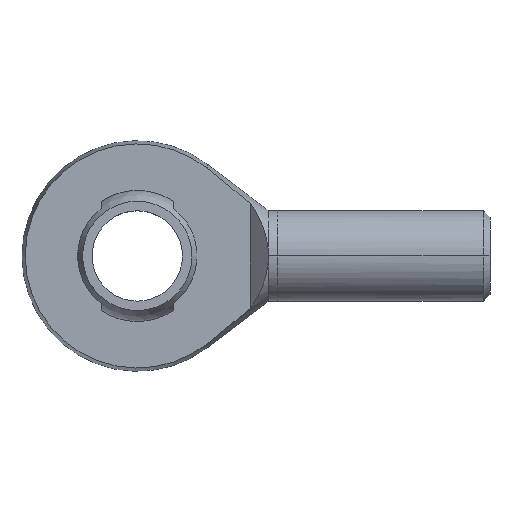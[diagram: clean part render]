
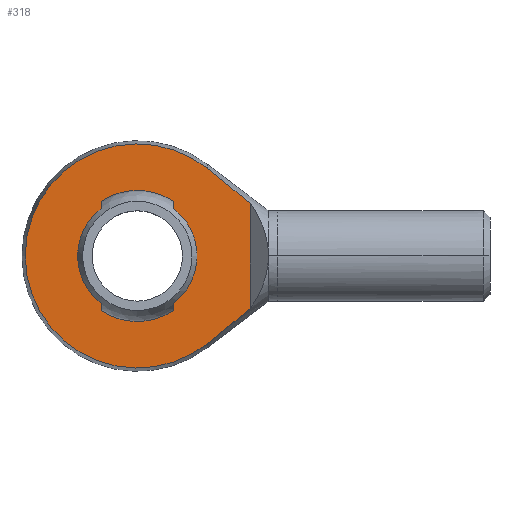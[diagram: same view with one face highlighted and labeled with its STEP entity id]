
A CAD part, top view. The second image highlights one B-rep face of the part: STEP entity #318.
In plain terms, the highlighted planar face has unit normal (0, 0, 1).
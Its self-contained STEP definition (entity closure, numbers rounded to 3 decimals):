
#3 = EDGE_CURVE ( 'NONE', #5, #105, #397, .T. ) ;
#5 = VERTEX_POINT ( 'NONE', #396 ) ;
#7 = VERTEX_POINT ( 'NONE', #384 ) ;
#9 = VERTEX_POINT ( 'NONE', #383 ) ;
#10 = EDGE_CURVE ( 'NONE', #9, #1370, #382, .T. ) ;
#15 = EDGE_CURVE ( 'NONE', #1372, #1373, #425, .T. ) ;
#105 = VERTEX_POINT ( 'NONE', #538 ) ;
#107 = EDGE_CURVE ( 'NONE', #105, #148, #534, .T. ) ;
#128 = EDGE_CURVE ( 'NONE', #1353, #139, #610, .T. ) ;
#139 = VERTEX_POINT ( 'NONE', #592 ) ;
#148 = VERTEX_POINT ( 'NONE', #646 ) ;
#185 = EDGE_CURVE ( 'NONE', #186, #139, #705, .T. ) ;
#186 = VERTEX_POINT ( 'NONE', #696 ) ;
#306 = ORIENTED_EDGE ( 'NONE', *, *, #185, .F. ) ;
#307 = ORIENTED_EDGE ( 'NONE', *, *, #308, .F. ) ;
#308 = EDGE_CURVE ( 'NONE', #1370, #186, #951, .T. ) ;
#309 = EDGE_LOOP ( 'NONE', ( #310, #311, #313, #314 ) ) ;
#310 = ORIENTED_EDGE ( 'NONE', *, *, #1363, .T. ) ;
#311 = ORIENTED_EDGE ( 'NONE', *, *, #312, .T. ) ;
#312 = EDGE_CURVE ( 'NONE', #7, #5, #943, .T. ) ;
#313 = ORIENTED_EDGE ( 'NONE', *, *, #3, .T. ) ;
#314 = ORIENTED_EDGE ( 'NONE', *, *, #107, .T. ) ;
#318 = ADVANCED_FACE ( 'NONE', ( #932, #931 ), #938, .F. ) ;
#319 = EDGE_LOOP ( 'NONE', ( #320, #321, #323, #324, #327, #329, #306, #307 ) ) ;
#320 = ORIENTED_EDGE ( 'NONE', *, *, #10, .F. ) ;
#321 = ORIENTED_EDGE ( 'NONE', *, *, #322, .T. ) ;
#322 = EDGE_CURVE ( 'NONE', #9, #1373, #988, .T. ) ;
#323 = ORIENTED_EDGE ( 'NONE', *, *, #15, .F. ) ;
#324 = ORIENTED_EDGE ( 'NONE', *, *, #325, .F. ) ;
#325 = EDGE_CURVE ( 'NONE', #326, #1372, #984, .T. ) ;
#326 = VERTEX_POINT ( 'NONE', #979 ) ;
#327 = ORIENTED_EDGE ( 'NONE', *, *, #328, .F. ) ;
#328 = EDGE_CURVE ( 'NONE', #1353, #326, #978, .T. ) ;
#329 = ORIENTED_EDGE ( 'NONE', *, *, #128, .T. ) ;
#379 = DIRECTION ( 'NONE',  ( 0., 1., 0. ) ) ;
#380 = VECTOR ( 'NONE', #379, 1000. ) ;
#381 = CARTESIAN_POINT ( 'NONE',  ( 8., 12.093, 6. ) ) ;
#382 = LINE ( 'NONE', #381, #380 ) ;
#383 = CARTESIAN_POINT ( 'NONE',  ( 8., 10.5, 6. ) ) ;
#384 = CARTESIAN_POINT ( 'NONE',  ( 25., -11.57, 6. ) ) ;
#389 = CARTESIAN_POINT ( 'NONE',  ( 15.424, 19.4, 6. ) ) ;
#390 = CARTESIAN_POINT ( 'NONE',  ( 17.037, 18.117, 6. ) ) ;
#391 = CARTESIAN_POINT ( 'NONE',  ( 18.646, 16.828, 6. ) ) ;
#392 = CARTESIAN_POINT ( 'NONE',  ( 21.843, 14.224, 6. ) ) ;
#393 = CARTESIAN_POINT ( 'NONE',  ( 23.434, 12.91, 6. ) ) ;
#394 = CARTESIAN_POINT ( 'NONE',  ( 25., 11.57, 6. ) ) ;
#396 = CARTESIAN_POINT ( 'NONE',  ( 25., 11.57, 6. ) ) ;
#397 = B_SPLINE_CURVE_WITH_KNOTS ( 'NONE', 3,
 ( #394, #393, #392, #391, #390, #389 ),
 .UNSPECIFIED., .F., .F.,
 ( 4, 2, 4 ),
 ( 0.083, 0.089, 0.095 ),
 .UNSPECIFIED. ) ;
#422 = DIRECTION ( 'NONE',  ( 0., 1., 0. ) ) ;
#423 = VECTOR ( 'NONE', #422, 1000. ) ;
#424 = CARTESIAN_POINT ( 'NONE',  ( 8., 12.093, 6. ) ) ;
#425 = LINE ( 'NONE', #424, #423 ) ;
#530 = DIRECTION ( 'NONE',  ( -1., 0., 0. ) ) ;
#531 = DIRECTION ( 'NONE',  ( 0., 0., 1. ) ) ;
#532 = CARTESIAN_POINT ( 'NONE',  ( 0., 0., 6. ) ) ;
#533 = AXIS2_PLACEMENT_3D ( 'NONE', #532, #531, #530 ) ;
#534 = CIRCLE ( 'NONE', #533, 24.784 ) ;
#538 = CARTESIAN_POINT ( 'NONE',  ( 15.424, 19.4, 6. ) ) ;
#592 = CARTESIAN_POINT ( 'NONE',  ( -8., 10.5, 6. ) ) ;
#606 = DIRECTION ( 'NONE',  ( -1., 0., 0. ) ) ;
#607 = DIRECTION ( 'NONE',  ( 0., 0., -1. ) ) ;
#608 = CARTESIAN_POINT ( 'NONE',  ( 0., 0., 6. ) ) ;
#609 = AXIS2_PLACEMENT_3D ( 'NONE', #608, #607, #606 ) ;
#610 = CIRCLE ( 'NONE', #609, 13.2 ) ;
#646 = CARTESIAN_POINT ( 'NONE',  ( 15.424, -19.4, 6. ) ) ;
#696 = CARTESIAN_POINT ( 'NONE',  ( -8., 12.093, 6. ) ) ;
#697 = DIRECTION ( 'NONE',  ( 0., -1., 0. ) ) ;
#698 = VECTOR ( 'NONE', #697, 1000. ) ;
#699 = CARTESIAN_POINT ( 'NONE',  ( -8., 12.093, 6. ) ) ;
#705 = LINE ( 'NONE', #699, #698 ) ;
#926 = CARTESIAN_POINT ( 'NONE',  ( 0., 0., 6. ) ) ;
#927 = DIRECTION ( 'NONE',  ( -1., 0., 0. ) ) ;
#928 = DIRECTION ( 'NONE',  ( 0., 0., -1. ) ) ;
#929 = CARTESIAN_POINT ( 'NONE',  ( -25.5, -25.5, 6. ) ) ;
#930 = AXIS2_PLACEMENT_3D ( 'NONE', #929, #928, #927 ) ;
#931 = FACE_OUTER_BOUND ( 'NONE', #309, .T. ) ;
#932 = FACE_BOUND ( 'NONE', #319, .T. ) ;
#938 = PLANE ( 'NONE',  #930 ) ;
#940 = DIRECTION ( 'NONE',  ( 0., 1., 0. ) ) ;
#941 = VECTOR ( 'NONE', #940, 1000. ) ;
#942 = CARTESIAN_POINT ( 'NONE',  ( 25., -25.5, 6. ) ) ;
#943 = LINE ( 'NONE', #942, #941 ) ;
#944 = DIRECTION ( 'NONE',  ( 1., 0., 0. ) ) ;
#945 = DIRECTION ( 'NONE',  ( 0., 0., 1. ) ) ;
#946 = CARTESIAN_POINT ( 'NONE',  ( 0., 0., 6. ) ) ;
#947 = AXIS2_PLACEMENT_3D ( 'NONE', #946, #945, #944 ) ;
#951 = CIRCLE ( 'NONE', #947, 14.5 ) ;
#975 = DIRECTION ( 'NONE',  ( 0., -1., 0. ) ) ;
#976 = VECTOR ( 'NONE', #975, 1000. ) ;
#977 = CARTESIAN_POINT ( 'NONE',  ( -8., 12.093, 6. ) ) ;
#978 = LINE ( 'NONE', #977, #976 ) ;
#979 = CARTESIAN_POINT ( 'NONE',  ( -8., -12.093, 6. ) ) ;
#980 = DIRECTION ( 'NONE',  ( 1., 0., 0. ) ) ;
#981 = DIRECTION ( 'NONE',  ( 0., 0., 1. ) ) ;
#982 = CARTESIAN_POINT ( 'NONE',  ( 0., 0., 6. ) ) ;
#983 = AXIS2_PLACEMENT_3D ( 'NONE', #982, #981, #980 ) ;
#984 = CIRCLE ( 'NONE', #983, 14.5 ) ;
#985 = DIRECTION ( 'NONE',  ( -1., 0., 0. ) ) ;
#986 = DIRECTION ( 'NONE',  ( 0., 0., -1. ) ) ;
#987 = AXIS2_PLACEMENT_3D ( 'NONE', #926, #986, #985 ) ;
#988 = CIRCLE ( 'NONE', #987, 13.2 ) ;
#994 = CARTESIAN_POINT ( 'NONE',  ( -8., -10.5, 6. ) ) ;
#1028 = CARTESIAN_POINT ( 'NONE',  ( 25., -11.57, 6. ) ) ;
#1029 = CARTESIAN_POINT ( 'NONE',  ( 23.432, -12.911, 6. ) ) ;
#1030 = CARTESIAN_POINT ( 'NONE',  ( 21.843, -14.224, 6. ) ) ;
#1031 = CARTESIAN_POINT ( 'NONE',  ( 18.646, -16.828, 6. ) ) ;
#1032 = CARTESIAN_POINT ( 'NONE',  ( 17.037, -18.117, 6. ) ) ;
#1033 = CARTESIAN_POINT ( 'NONE',  ( 15.424, -19.4, 6. ) ) ;
#1034 = B_SPLINE_CURVE_WITH_KNOTS ( 'NONE', 3,
 ( #1033, #1032, #1031, #1030, #1029, #1028 ),
 .UNSPECIFIED., .F., .F.,
 ( 4, 2, 4 ),
 ( 0.04, 0.046, 0.052 ),
 .UNSPECIFIED. ) ;
#1057 = CARTESIAN_POINT ( 'NONE',  ( 8., -10.5, 6. ) ) ;
#1058 = CARTESIAN_POINT ( 'NONE',  ( 8., -12.093, 6. ) ) ;
#1059 = CARTESIAN_POINT ( 'NONE',  ( 8., 12.093, 6. ) ) ;
#1353 = VERTEX_POINT ( 'NONE', #994 ) ;
#1363 = EDGE_CURVE ( 'NONE', #148, #7, #1034, .T. ) ;
#1370 = VERTEX_POINT ( 'NONE', #1059 ) ;
#1372 = VERTEX_POINT ( 'NONE', #1058 ) ;
#1373 = VERTEX_POINT ( 'NONE', #1057 ) ;
